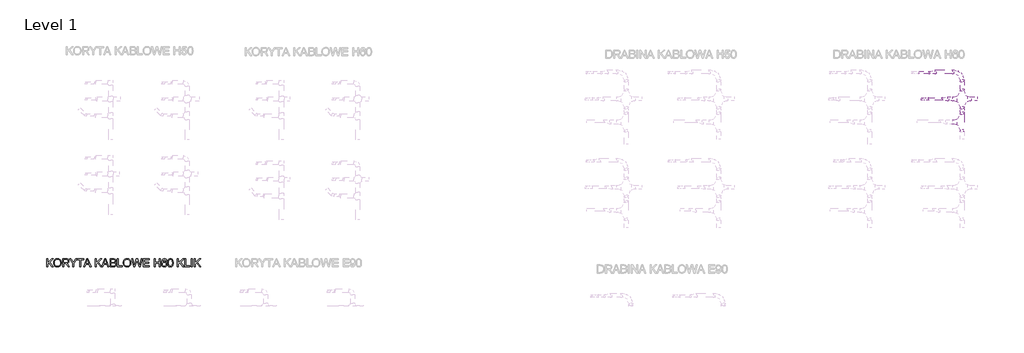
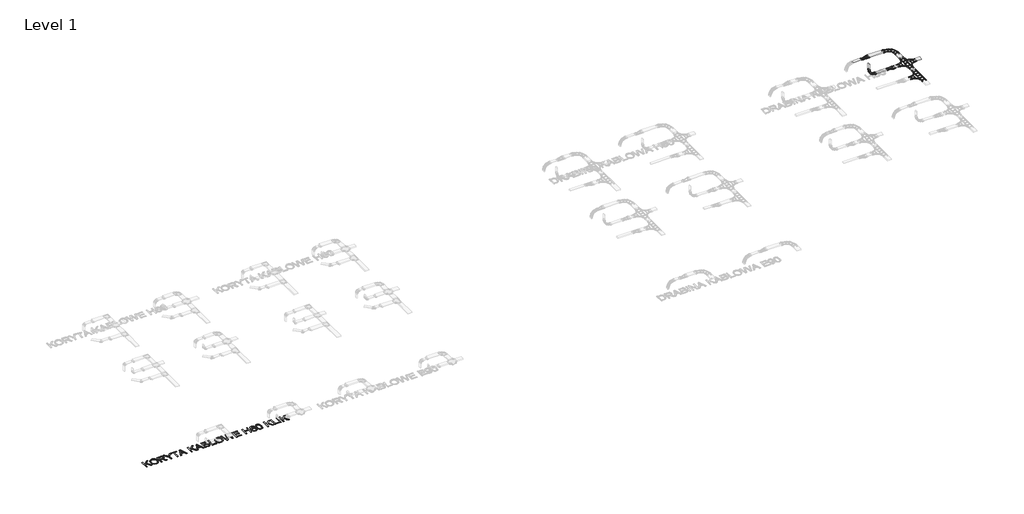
# One storey, part 6 of 9: 8 cable carrier segments, 6 cable carrier fittings, 1 proxy.
"""IFC4 building model written with IfcOpenShell, lengths in millimetres."""

from ifc_helpers import new_model, si_unit, frame, origin, origin_with_axes, place, context, project, spatial, polyline, outline, extrude, transform, mapped, element, save
from components import cable_carrier_fitting_1_5_mm_3523910d, cable_carrier_fitting_1_5_mm_19f47176, cable_carrier_fitting_1_5_mm_2af02ecb, cable_carrier_fitting_1_5_mm_7721eeaa, cable_carrier_fitting_1_5_mm_8b0a73e9, cable_carrier_fitting_1_5_mm_c053843e

model = new_model("IFC4")

# Units and contexts
model_context = context("Model", 3, world=origin())
ifc_project = project(units=[si_unit("LENGTHUNIT", "METRE", prefix="MILLI")], contexts=[model_context])

# Site, building, storey
site = spatial("IfcSite", under=ifc_project)
building = spatial("IfcBuilding", under=site)
storey = spatial("IfcBuildingStorey", under=building, Name="Level 1", Elevation=0.0)

# Proxy
placement = place(None, origin())
element("IfcBuildingElementProxy", 1, Name="600mm Arial", ObjectType="600mm Arial", at=placement, inside=storey, context=model_context, shape_type="SweptSolid", body=[
    extrude(outline(polyline([(-23948.6894302, 6231.1737435), (-23948.6894302, 6821.9429743), (-23874.8432764, 6821.9429743), (-23874.8432764, 6532.760282), (-23571.958661, 6821.9429743), (-23468.6894302, 6821.9429743), (-23722.9682764, 6579.0583589), (-23459.458661, 6231.1737435), (-23549.7471226, 6231.1737435), (-23775.3240456, 6529.1545127), (-23874.8432764, 6434.2506666), (-23874.8432764, 6231.1737435), (-23948.6894302, 6231.1737435)])), origin_with_axes(), (0.0, 0.0, 1.0), 10.0),
    extrude(outline(polyline([(-23431.7663533, 6518.7698974), (-23426.8444783, 6588.0637675), (-23412.0788533, 6649.4069166), (-23387.4694783, 6702.7993445), (-23353.0163533, 6748.2410512), (-23310.7837812, 6784.5241041), (-23262.8360649, 6810.4405704), (-23209.1732043, 6825.9904502), (-23149.7951995, 6831.1737435), (-23110.0506081, 6828.7398493), (-23072.3072187, 6821.4381666), (-23036.5650312, 6809.2686954), (-23002.8240456, 6792.2314358), (-22972.0307764, 6770.8402099), (-22945.1317379, 6745.6088397), (-22922.1269302, 6716.5373252), (-22903.0163533, 6683.6256666), (-22887.9983245, 6647.6220608), (-22877.271161, 6609.274705), (-22870.8348629, 6568.5835993), (-22868.6894302, 6525.5487435), (-22870.9475432, 6481.9459791), (-22877.7218822, 6440.7049935), (-22889.0124471, 6401.8257868), (-22904.8192379, 6365.3083589), (-22924.7681562, 6332.1172531), (-22948.4851033, 6303.2170127), (-22975.9700793, 6278.6076377), (-23007.2230841, 6258.2891281), (-23041.013649, 6242.3876858), (-23076.1113052, 6231.0295127), (-23112.5160528, 6224.2146089), (-23150.2278918, 6221.9429743), (-23190.6665937, 6224.4534911), (-23228.9057764, 6231.9850416), (-23264.9454399, 6244.5376257), (-23298.7855841, 6262.1112435), (-23329.5427956, 6284.025306), (-23356.333661, 6309.5992243), (-23379.1581802, 6338.8329983), (-23398.0163533, 6371.7266281), (-23412.7819783, 6406.9595007), (-23423.3288533, 6443.2110031), (-23429.6569783, 6480.4811353), (-23431.7663533, 6518.7698974)]), holes=[polyline([(-23357.9201995, 6518.0487435), (-23354.2287932, 6469.0914118), (-23343.1545745, 6425.6328781), (-23324.6975432, 6387.6731425), (-23298.8576995, 6355.212205), (-23267.4469423, 6329.2146089), (-23232.2771706, 6310.6448974), (-23193.3483846, 6299.5030704), (-23150.6605841, 6295.7891281), (-23107.2426153, 6299.5391281), (-23067.8540937, 6310.7891281), (-23032.4950192, 6329.5391281), (-23001.1653918, 6355.7891281), (-22975.5148509, 6388.9351618), (-22957.193036, 6428.3732627), (-22946.1999471, 6474.103431), (-22942.5355841, 6526.1256666), (-22944.1040937, 6559.9207387), (-22948.8096226, 6591.4982627), (-22956.6521706, 6620.8582387), (-22967.6317379, 6648.0006666), (-22981.6266298, 6672.5694767), (-22998.5151514, 6694.2085993), (-23018.2973028, 6712.9180344), (-23040.9730841, 6728.697782), (-23065.8393701, 6741.2233228), (-23092.193036, 6750.1701377), (-23120.0340817, 6755.5382267), (-23149.3625072, 6757.3275897), (-23190.5674351, 6753.8795728), (-23228.7976033, 6743.5355224), (-23264.053012, 6726.2954382), (-23296.333661, 6702.1593204), (-23323.2777716, 6669.9643084), (-23342.5235649, 6628.5475416), (-23354.0710408, 6577.9090199), (-23357.9201995, 6518.0487435)])]), origin_with_axes(), (0.0, 0.0, 1.0), 10.0),
    extrude(outline(polyline([(-22767.1509687, 6231.1737435), (-22767.1509687, 6821.9429743), (-22512.583661, 6821.9429743), (-22444.1641899, 6817.9585993), (-22394.3865456, 6806.0054743), (-22375.1768101, 6796.5042724), (-22358.0043341, 6783.9381666), (-22342.8691177, 6768.307157), (-22329.771161, 6749.6112435), (-22319.20175, 6728.8555344), (-22311.6521706, 6707.0451377), (-22305.6125072, 6660.260282), (-22308.1140096, 6629.9177339), (-22315.6185168, 6602.0631666), (-22328.1260288, 6576.69658), (-22345.6365456, 6553.8179743), (-22368.3754278, 6534.1575175), (-22396.568036, 6518.4453781), (-22430.2143701, 6506.681556), (-22469.3144302, 6498.8660512), (-22444.9754879, 6482.9646089), (-22427.3432764, 6467.2795127), (-22367.4875072, 6391.2698974), (-22268.9778918, 6231.1737435), (-22354.7951995, 6231.1737435), (-22431.6701995, 6353.6256666), (-22487.1990456, 6434.6833589), (-22507.8420745, 6458.3191762), (-22526.2134687, 6472.9766281), (-22561.333661, 6487.0391281), (-22604.1701995, 6489.635282), (-22693.3048149, 6489.635282), (-22693.3048149, 6231.1737435), (-22767.1509687, 6231.1737435)]), holes=[polyline([(-22693.3048149, 6563.4814358), (-22528.0163533, 6563.4814358), (-22480.5464014, 6566.0956185), (-22443.7134687, 6573.9381666), (-22415.9851033, 6587.5319166), (-22395.8288533, 6607.399705), (-22383.5512091, 6631.432157), (-22379.458661, 6657.5198974), (-22381.4102836, 6676.4051137), (-22387.2651514, 6693.541532), (-22397.0232644, 6708.9291522), (-22410.6846226, 6722.5679743), (-22428.5647307, 6733.7368445), (-22450.9790937, 6741.7146089), (-22477.9277115, 6746.5012675), (-22509.4105841, 6748.0968204), (-22693.3048149, 6748.0968204), (-22693.3048149, 6563.4814358)])]), origin_with_axes(), (0.0, 0.0, 1.0), 10.0),
    extrude(outline(polyline([(-22010.2278918, 6231.1737435), (-22010.2278918, 6481.4141281), (-22240.9971226, 6821.9429743), (-22153.8817379, 6821.9429743), (-22030.708661, 6640.0679743), (-21967.6798149, 6547.3275897), (-21904.5067379, 6646.7025897), (-21792.7278918, 6821.9429743), (-21705.6125072, 6821.9429743), (-21936.3817379, 6481.4141281), (-21936.3817379, 6231.1737435), (-22010.2278918, 6231.1737435)])), origin_with_axes(), (0.0, 0.0, 1.0), 10.0),
    extrude(outline(polyline([(-21493.3048149, 6231.1737435), (-21493.3048149, 6748.0968204), (-21687.1509687, 6748.0968204), (-21687.1509687, 6821.9429743), (-21225.6125072, 6821.9429743), (-21225.6125072, 6748.0968204), (-21419.458661, 6748.0968204), (-21419.458661, 6231.1737435), (-21493.3048149, 6231.1737435)])), origin_with_axes(), (0.0, 0.0, 1.0), 10.0),
    extrude(outline(polyline([(-21211.333661, 6231.1737435), (-20975.5163533, 6821.9429743), (-20912.6317379, 6821.9429743), (-20676.8144302, 6231.1737435), (-20754.8432764, 6231.1737435), (-20822.4875072, 6415.7891281), (-21065.8048149, 6415.7891281), (-21133.3048149, 6231.1737435), (-21211.333661, 6231.1737435)]), holes=[polyline([(-21038.6894302, 6489.635282), (-20849.458661, 6489.635282), (-20902.6798149, 6634.8756666), (-20944.0740456, 6748.0968204), (-20980.8528918, 6647.5679743), (-21038.6894302, 6489.635282)])]), origin_with_axes(), (0.0, 0.0, 1.0), 10.0),
    extrude(outline(polyline([(-20367.1509687, 6231.1737435), (-20367.1509687, 6821.9429743), (-20293.3048149, 6821.9429743), (-20293.3048149, 6532.760282), (-19990.4201995, 6821.9429743), (-19887.1509687, 6821.9429743), (-20141.4298149, 6579.0583589), (-19877.9201995, 6231.1737435), (-19968.208661, 6231.1737435), (-20193.7855841, 6529.1545127), (-20293.3048149, 6434.2506666), (-20293.3048149, 6231.1737435), (-20367.1509687, 6231.1737435)])), origin_with_axes(), (0.0, 0.0, 1.0), 10.0),
    extrude(outline(polyline([(-19891.333661, 6231.1737435), (-19655.5163533, 6821.9429743), (-19592.6317379, 6821.9429743), (-19356.8144302, 6231.1737435), (-19434.8432764, 6231.1737435), (-19502.4875072, 6415.7891281), (-19745.8048149, 6415.7891281), (-19813.3048149, 6231.1737435), (-19891.333661, 6231.1737435)]), holes=[polyline([(-19718.6894302, 6489.635282), (-19529.458661, 6489.635282), (-19582.6798149, 6634.8756666), (-19624.0740456, 6748.0968204), (-19660.8528918, 6647.5679743), (-19718.6894302, 6489.635282)])]), origin_with_axes(), (0.0, 0.0, 1.0), 10.0),
    extrude(outline(polyline([(-19277.9201995, 6231.1737435), (-19277.9201995, 6821.9429743), (-19052.4875072, 6821.9429743), (-18990.4863052, 6817.5980224), (-18942.0788533, 6804.5631666), (-18904.9754879, 6782.5138877), (-18889.8042139, 6767.9871449), (-18876.8865456, 6751.1256666), (-18859.2002476, 6714.2025897), (-18853.3048149, 6675.5487435), (-18858.2627476, 6639.97783), (-18873.1365456, 6606.5343204), (-18898.0343822, 6577.2735031), (-18933.0644302, 6554.2506666), (-18910.7762692, 6544.7494647), (-18891.2194783, 6532.399705), (-18874.3940576, 6517.2013877), (-18860.3000072, 6499.1545127), (-18849.1626875, 6478.8089599), (-18841.2074591, 6456.7146089), (-18836.4343221, 6432.8714599), (-18834.8432764, 6407.2795127), (-18839.1882283, 6366.0835993), (-18852.2230841, 6327.8804743), (-18871.6762091, 6295.3924935), (-18895.2759687, 6271.3420127), (-18924.1762091, 6253.9261474), (-18959.5307764, 6241.3420127), (-19002.4935168, 6233.7158108), (-19054.2182764, 6231.1737435), (-19277.9201995, 6231.1737435)]), holes=[polyline([(-19204.0740456, 6581.9429743), (-19069.2182764, 6581.9429743), (-19022.0548149, 6583.5295127), (-18990.4682764, 6588.2891281), (-18962.9021706, 6599.2326377), (-18943.0884687, 6615.6208589), (-18931.1353437, 6637.2013877), (-18927.1509687, 6663.7218204), (-18930.864911, 6689.4670127), (-18942.0067379, 6711.8948974), (-18960.0716418, 6729.400907), (-18984.5548149, 6740.3804743), (-19022.1269302, 6746.1677339), (-19079.458661, 6748.0968204), (-19204.0740456, 6748.0968204), (-19204.0740456, 6581.9429743)]), polyline([(-19204.0740456, 6305.0198974), (-19052.6317379, 6305.0198974), (-18997.8240456, 6307.9045127), (-18972.3853437, 6314.3047531), (-18951.4538533, 6323.9862435), (-18934.4346226, 6337.8504262), (-18920.7326995, 6356.7987435), (-18911.7002476, 6379.9838397), (-18908.6894302, 6406.5583589), (-18912.2230841, 6437.4237435), (-18922.8240456, 6463.962205), (-18941.3396706, 6484.713407), (-18968.6173149, 6498.2170127), (-19007.2531322, 6505.6268685), (-19059.8432764, 6508.0968204), (-19204.0740456, 6508.0968204), (-19204.0740456, 6305.0198974)])]), origin_with_axes(), (0.0, 0.0, 1.0), 10.0),
    extrude(outline(polyline([(-18733.3048149, 6231.1737435), (-18733.3048149, 6821.9429743), (-18659.458661, 6821.9429743), (-18659.458661, 6305.0198974), (-18364.0740456, 6305.0198974), (-18364.0740456, 6231.1737435), (-18733.3048149, 6231.1737435)])), origin_with_axes(), (0.0, 0.0, 1.0), 10.0),
    extrude(outline(polyline([(-18308.6894302, 6518.7698974), (-18303.7675552, 6588.0637675), (-18289.0019302, 6649.4069166), (-18264.3925552, 6702.7993445), (-18229.9394302, 6748.2410512), (-18187.7068581, 6784.5241041), (-18139.7591418, 6810.4405704), (-18086.0962812, 6825.9904502), (-18026.7182764, 6831.1737435), (-17986.9736851, 6828.7398493), (-17949.2302956, 6821.4381666), (-17913.4881081, 6809.2686954), (-17879.7471226, 6792.2314358), (-17848.9538533, 6770.8402099), (-17822.0548149, 6745.6088397), (-17799.0500072, 6716.5373252), (-17779.9394302, 6683.6256666), (-17764.9214014, 6647.6220608), (-17754.1942379, 6609.274705), (-17747.7579399, 6568.5835993), (-17745.6125072, 6525.5487435), (-17747.8706201, 6481.9459791), (-17754.6449591, 6440.7049935), (-17765.935524, 6401.8257868), (-17781.7423149, 6365.3083589), (-17801.6912331, 6332.1172531), (-17825.4081802, 6303.2170127), (-17852.8931562, 6278.6076377), (-17884.146161, 6258.2891281), (-17917.9367259, 6242.3876858), (-17953.0343822, 6231.0295127), (-17989.4391298, 6224.2146089), (-18027.1509687, 6221.9429743), (-18067.5896706, 6224.4534911), (-18105.8288533, 6231.9850416), (-18141.8685168, 6244.5376257), (-18175.708661, 6262.1112435), (-18206.4658726, 6284.025306), (-18233.2567379, 6309.5992243), (-18256.0812572, 6338.8329983), (-18274.9394302, 6371.7266281), (-18289.7050552, 6406.9595007), (-18300.2519302, 6443.2110031), (-18306.5800552, 6480.4811353), (-18308.6894302, 6518.7698974)]), holes=[polyline([(-18234.8432764, 6518.0487435), (-18231.1518701, 6469.0914118), (-18220.0776514, 6425.6328781), (-18201.6206201, 6387.6731425), (-18175.7807764, 6355.212205), (-18144.3700192, 6329.2146089), (-18109.2002476, 6310.6448974), (-18070.2714615, 6299.5030704), (-18027.583661, 6295.7891281), (-17984.1656923, 6299.5391281), (-17944.7771706, 6310.7891281), (-17909.4180961, 6329.5391281), (-17878.0884687, 6355.7891281), (-17852.4379278, 6388.9351618), (-17834.1161129, 6428.3732627), (-17823.123024, 6474.103431), (-17819.458661, 6526.1256666), (-17821.0271706, 6559.9207387), (-17825.7326995, 6591.4982627), (-17833.5752476, 6620.8582387), (-17844.5548149, 6648.0006666), (-17858.5497067, 6672.5694767), (-17875.4382283, 6694.2085993), (-17895.2203798, 6712.9180344), (-17917.896161, 6728.697782), (-17942.7624471, 6741.2233228), (-17969.1161129, 6750.1701377), (-17996.9571586, 6755.5382267), (-18026.2855841, 6757.3275897), (-18067.490512, 6753.8795728), (-18105.7206802, 6743.5355224), (-18140.9760889, 6726.2954382), (-18173.2567379, 6702.1593204), (-18200.2008485, 6669.9643084), (-18219.4466418, 6628.5475416), (-18230.9941177, 6577.9090199), (-18234.8432764, 6518.0487435)])]), origin_with_axes(), (0.0, 0.0, 1.0), 10.0),
    extrude(outline(polyline([(-17538.3528918, 6231.1737435), (-17699.458661, 6821.9429743), (-17623.3048149, 6821.9429743), (-17529.8432764, 6433.6737435), (-17500.9971226, 6313.8179743), (-17470.1317379, 6419.8275897), (-17353.0163533, 6821.9429743), (-17243.2567379, 6821.9429743), (-17158.1605841, 6530.4525897), (-17121.7062572, 6422.2795127), (-17094.8432764, 6313.8179743), (-17066.8625072, 6430.212205), (-16972.5355841, 6821.9429743), (-16896.3817379, 6821.9429743), (-17057.6317379, 6231.1737435), (-17136.5259687, 6231.1737435), (-17278.1605841, 6686.9429743), (-17297.9201995, 6750.5487435), (-17320.1317379, 6673.962205), (-17449.2182764, 6231.1737435), (-17538.3528918, 6231.1737435)])), origin_with_axes(), (0.0, 0.0, 1.0), 10.0),
    extrude(outline(polyline([(-16822.5355841, 6231.1737435), (-16822.5355841, 6821.9429743), (-16397.9201995, 6821.9429743), (-16397.9201995, 6748.0968204), (-16748.6894302, 6748.0968204), (-16748.6894302, 6572.712205), (-16416.3817379, 6572.712205), (-16416.3817379, 6498.8660512), (-16748.6894302, 6498.8660512), (-16748.6894302, 6305.0198974), (-16388.6894302, 6305.0198974), (-16388.6894302, 6231.1737435), (-16822.5355841, 6231.1737435)])), origin_with_axes(), (0.0, 0.0, 1.0), 10.0),
    extrude(outline(polyline([(-16047.1509687, 6231.1737435), (-16047.1509687, 6821.9429743), (-15973.3048149, 6821.9429743), (-15973.3048149, 6581.9429743), (-15659.458661, 6581.9429743), (-15659.458661, 6821.9429743), (-15585.6125072, 6821.9429743), (-15585.6125072, 6231.1737435), (-15659.458661, 6231.1737435), (-15659.458661, 6508.0968204), (-15973.3048149, 6508.0968204), (-15973.3048149, 6231.1737435), (-16047.1509687, 6231.1737435)])), origin_with_axes(), (0.0, 0.0, 1.0), 10.0),
    extrude(outline(polyline([(-15105.6125072, 6665.0198974), (-15179.458661, 6655.7891281), (-15191.3576995, 6692.3876858), (-15207.4394302, 6717.3756666), (-15223.3138293, 6730.8161714), (-15240.9370264, 6740.416532), (-15260.3090216, 6746.1767483), (-15281.4298149, 6748.0968204), (-15315.7567379, 6743.6256666), (-15348.0644302, 6730.212205), (-15375.8108245, 6701.9610031), (-15398.4730841, 6663.072782), (-15407.3297548, 6638.2695969), (-15413.7795745, 6608.0667724), (-15419.458661, 6531.462205), (-15389.8372668, 6566.0235031), (-15354.3384687, 6590.3804743), (-15314.9454399, 6604.82158), (-15273.6413533, 6609.635282), (-15238.1605841, 6606.3450175), (-15205.4201995, 6596.4742243), (-15175.4201995, 6580.0229022), (-15148.1605841, 6556.9910512), (-15125.5073389, 6528.7488637), (-15109.3264495, 6496.666532), (-15099.6179158, 6460.744056), (-15096.3817379, 6420.9814358), (-15102.4754879, 6368.10283), (-15110.0926754, 6343.1103421), (-15120.7567379, 6319.0823974), (-15134.0890697, 6296.915931), (-15149.7110649, 6277.5078781), (-15167.6227235, 6260.8582387), (-15187.8240456, 6246.9670127), (-15209.8823389, 6236.0189959), (-15233.364911, 6228.1989839), (-15258.271762, 6223.5069767), (-15284.6028918, 6221.9429743), (-15328.6248269, 6226.0896089), (-15368.3829399, 6238.5295127), (-15403.8772307, 6259.2626858), (-15435.1076995, 6288.2891281), (-15460.5689375, 6326.8348012), (-15478.755536, 6376.1256666), (-15489.6674951, 6436.1617243), (-15493.3048149, 6506.9429743), (-15489.2663533, 6586.2969406), (-15477.1509687, 6654.0223012), (-15456.958661, 6710.119056), (-15443.833661, 6733.8067062), (-15428.6894302, 6754.587205), (-15398.0494062, 6784.0553541), (-15362.5235649, 6805.104032), (-15322.1119062, 6817.7332387), (-15276.8144302, 6821.9429743), (-15242.803012, 6819.337806), (-15212.0187572, 6811.5223012), (-15184.4616658, 6798.4964599), (-15160.1317379, 6780.260282), (-15139.6870264, 6757.4267483), (-15123.7855841, 6730.6088397), (-15112.427411, 6699.806556), (-15105.6125072, 6665.0198974)]), holes=[polyline([(-15419.458661, 6422.135282), (-15415.1858245, 6389.4129262), (-15402.3673149, 6358.1689358), (-15382.4634687, 6331.305955), (-15356.9346226, 6311.7266281), (-15326.1233245, 6299.7735031), (-15290.3721226, 6295.7891281), (-15264.7035528, 6297.853431), (-15241.6401514, 6304.0463397), (-15221.1819182, 6314.3678541), (-15203.3288533, 6328.8179743), (-15188.8471826, 6346.8107627), (-15178.5031322, 6367.760282), (-15172.2967019, 6391.666532), (-15170.2278918, 6418.5295127), (-15172.2696586, 6444.3423132), (-15178.3949591, 6467.2614839), (-15188.6037932, 6487.2870248), (-15202.896161, 6504.4189358), (-15220.8033125, 6518.1433949), (-15241.8564976, 6527.94658), (-15266.0557163, 6533.8284911), (-15293.4009687, 6535.7891281), (-15318.7269903, 6533.8284911), (-15342.0608245, 6527.94658), (-15363.4024711, 6518.1433949), (-15382.7519302, 6504.4189358), (-15398.811125, 6487.5123853), (-15410.2819783, 6468.1629262), (-15417.1644903, 6446.3705584), (-15419.458661, 6422.135282)])]), origin_with_axes(), (0.0, 0.0, 1.0), 10.0),
    extrude(outline(polyline([(-15031.7663533, 6521.7987435), (-15026.3396706, 6616.3600416), (-15019.5563173, 6656.4607026), (-15010.0596226, 6691.774705), (-14997.8901514, 6722.5905103), (-14983.0884687, 6749.19658), (-14965.6545745, 6771.5929142), (-14945.5884687, 6789.7795127), (-14922.8225432, 6803.8510272), (-14897.2891899, 6813.9021089), (-14868.9884086, 6819.9327579), (-14837.9201995, 6821.9429743), (-14792.4153918, 6817.1833589), (-14751.6701995, 6802.9045127), (-14717.5956802, 6779.66533), (-14692.1028918, 6748.024705), (-14672.8480841, 6708.2530704), (-14657.4875072, 6660.6208589), (-14647.427411, 6600.13408), (-14644.0740456, 6521.7987435), (-14649.4466418, 6427.7783108), (-14656.162387, 6387.8128661), (-14665.5644302, 6352.5439358), (-14677.63925, 6321.7146089), (-14692.3733245, 6295.0679743), (-14709.7666538, 6272.604032), (-14729.8192379, 6254.322782), (-14752.6122067, 6240.1566161), (-14778.2266899, 6230.0379262), (-14806.6626875, 6223.9667123), (-14837.9201995, 6221.9429743), (-14878.5932764, 6225.4585993), (-14914.6509687, 6236.0054743), (-14946.0932764, 6253.5835993), (-14972.9201995, 6278.1929743), (-14998.6653918, 6322.6791522), (-15017.0548149, 6378.1088397), (-15028.0884687, 6444.4820368), (-15031.7663533, 6521.7987435)]), holes=[polyline([(-14957.9201995, 6521.9429743), (-14955.7567379, 6457.7467603), (-14949.2663533, 6405.7831185), (-14938.4490456, 6366.0520488), (-14923.3048149, 6338.5535512), (-14904.9875072, 6319.8441161), (-14884.6509687, 6306.4802339), (-14862.2951995, 6298.4619046), (-14837.9201995, 6295.7891281), (-14813.5451995, 6298.470919), (-14791.1894302, 6306.5162916), (-14770.8528918, 6319.9252459), (-14752.5355841, 6338.697782), (-14737.3913533, 6366.2413517), (-14726.5740456, 6405.963407), (-14720.083661, 6457.8639478), (-14717.9201995, 6521.9429743), (-14720.0115456, 6584.4399695), (-14726.2855841, 6635.4886474), (-14736.7423149, 6675.0890079), (-14751.3817379, 6703.2410512), (-14769.3925552, 6722.8654502), (-14789.9634687, 6736.8828781), (-14813.0944783, 6745.2933349), (-14838.7855841, 6748.0968204), (-14863.0343822, 6745.6268685), (-14885.0115456, 6738.2170127), (-14904.7170745, 6725.8672531), (-14922.1509687, 6708.5775897), (-14937.8000072, 6677.9285512), (-14948.9778918, 6636.6064358), (-14955.6846226, 6584.6112435), (-14957.9201995, 6521.9429743)])]), origin_with_axes(), (0.0, 0.0, 1.0), 10.0),
    extrude(outline(polyline([(-14320.9971226, 6231.1737435), (-14320.9971226, 6821.9429743), (-14247.1509687, 6821.9429743), (-14247.1509687, 6532.760282), (-13944.2663533, 6821.9429743), (-13840.9971226, 6821.9429743), (-14095.2759687, 6579.0583589), (-13831.7663533, 6231.1737435), (-13922.0548149, 6231.1737435), (-14147.6317379, 6529.1545127), (-14247.1509687, 6434.2506666), (-14247.1509687, 6231.1737435), (-14320.9971226, 6231.1737435)])), origin_with_axes(), (0.0, 0.0, 1.0), 10.0),
    extrude(outline(polyline([(-13776.3817379, 6231.1737435), (-13776.3817379, 6821.9429743), (-13702.5355841, 6821.9429743), (-13702.5355841, 6305.0198974), (-13407.1509687, 6305.0198974), (-13407.1509687, 6231.1737435), (-13776.3817379, 6231.1737435)])), origin_with_axes(), (0.0, 0.0, 1.0), 10.0),
    extrude(outline(polyline([(-13314.8432764, 6231.1737435), (-13314.8432764, 6821.9429743), (-13240.9971226, 6821.9429743), (-13240.9971226, 6231.1737435), (-13314.8432764, 6231.1737435)])), origin_with_axes(), (0.0, 0.0, 1.0), 10.0),
    extrude(outline(polyline([(-13093.3048149, 6231.1737435), (-13093.3048149, 6821.9429743), (-13019.458661, 6821.9429743), (-13019.458661, 6532.760282), (-12716.5740456, 6821.9429743), (-12613.3048149, 6821.9429743), (-12867.583661, 6579.0583589), (-12604.0740456, 6231.1737435), (-12694.3625072, 6231.1737435), (-12919.9394302, 6529.1545127), (-13019.458661, 6434.2506666), (-13019.458661, 6231.1737435), (-13093.3048149, 6231.1737435)])), origin_with_axes(), (0.0, 0.0, 1.0), 10.0),
])

# Cable carrier fittings
cable_carrier_fitting_1_5_mm_shape = cable_carrier_fitting_1_5_mm_3523910d(model_context)
element("IfcCableCarrierFitting", 2, ObjectType="BAKS_Łuk_drabiny : 1.5 mm", at=placement, inside=storey, context=model_context, shape_type="MappedRepresentation", body=[
    mapped(cable_carrier_fitting_1_5_mm_shape, transform((43375.8987392, 20568.4533524, 2750.0), x_axis=(0.0, 1.0, 0.0), y_axis=(-1.0, 0.0, 0.0), z_axis=(0.0, 0.0, 1.0))),
])
cable_carrier_fitting_1_5_mm_2_shape = cable_carrier_fitting_1_5_mm_19f47176(model_context)
element("IfcCableCarrierFitting", 3, ObjectType="BAKS_Czwórnik_drabiny : 1.5 mm", at=placement, inside=storey, context=model_context, shape_type="MappedRepresentation", body=[
    mapped(cable_carrier_fitting_1_5_mm_2_shape, transform((43375.8987392, 18581.6749022, 2750.0), x_axis=(0.0, 1.0, 0.0), y_axis=(-1.0, 0.0, 0.0), z_axis=(0.0, 0.0, 1.0))),
])
cable_carrier_fitting_1_5_mm_3_shape = cable_carrier_fitting_1_5_mm_2af02ecb(model_context)
element("IfcCableCarrierFitting", 4, ObjectType="BAKS_Redukcja_drabiny : 1.5 mm", at=placement, inside=storey, context=model_context, shape_type="MappedRepresentation", body=[
    mapped(cable_carrier_fitting_1_5_mm_3_shape, transform((41509.31285, 20568.4533524, 2750.0), x_axis=(-1.0, 0.0, 0.0), y_axis=(0.0, -1.0, 0.0), z_axis=(0.0, 0.0, 1.0))),
])
cable_carrier_fitting_1_5_mm_4_shape = cable_carrier_fitting_1_5_mm_7721eeaa(model_context)
element("IfcCableCarrierFitting", 5, ObjectType="BAKS_Łuk_pionowy_drabiny_wew : 1.5 mm", at=placement, inside=storey, context=model_context, shape_type="MappedRepresentation", body=[
    mapped(cable_carrier_fitting_1_5_mm_4_shape, transform((40404.2228336, 18581.6749022, 2750.0), x_axis=(0.0, 0.0, -1.0), y_axis=(1.0, 0.0, 0.0), z_axis=(0.0, -1.0, 0.0))),
])
cable_carrier_fitting_1_5_mm_5_shape = cable_carrier_fitting_1_5_mm_8b0a73e9(model_context)
element("IfcCableCarrierFitting", 6, ObjectType="BAKS_Trójnik_drabiny : 1.5 mm", at=placement, inside=storey, context=model_context, shape_type="MappedRepresentation", body=[
    mapped(cable_carrier_fitting_1_5_mm_5_shape, transform((43375.8987392, 16879.8296821, 2750.0), x_axis=(0.0, -1.0, 0.0), y_axis=(1.0, 0.0, 0.0), z_axis=(0.0, 0.0, 1.0))),
])
cable_carrier_fitting_1_5_mm_6_shape = cable_carrier_fitting_1_5_mm_c053843e(model_context)
element("IfcCableCarrierFitting", 7, ObjectType="BAKS_Redukcja_drabiny : 1.5 mm", at=placement, inside=storey, context=model_context, shape_type="MappedRepresentation", body=[
    mapped(cable_carrier_fitting_1_5_mm_6_shape, transform((41824.2228336, 18581.6749022, 2750.0), x_axis=(1.0, 0.0, 0.0), y_axis=(0.0, 1.0, 0.0), z_axis=(0.0, 0.0, 1.0))),
])

# Cable carrier segments
element("IfcCableCarrierSegment", 8, ObjectType="BAKS - drabina kablowa H60 (DKP)", at=placement, inside=storey, context=model_context, shape_type="SweptSolid", body=[
    extrude(outline(polyline([(43525.8987392, 17599.8296821), (43225.8987392, 17599.8296821), (43225.8987392, 17861.6749022), (43525.8987392, 17861.6749022), (43525.8987392, 17599.8296821)])), frame((0.0, 0.0, 2720.0), z_axis=(0.0, 0.0, 1.0), x_axis=(1.0, 0.0, 0.0)), (0.0, 0.0, 1.0), 60.0),
])
element("IfcCableCarrierSegment", 9, ObjectType="BAKS - drabina kablowa H60 (DKP)", at=placement, inside=storey, context=model_context, shape_type="SweptSolid", body=[
    extrude(outline(polyline([(40909.31285, 20618.4533524), (40909.31285, 20418.4533524), (40229.2228336, 20418.4533524), (40229.2228336, 20618.4533524), (40909.31285, 20618.4533524)])), frame((0.0, 0.0, 2720.0), z_axis=(0.0, 0.0, 1.0), x_axis=(1.0, 0.0, 0.0)), (0.0, 0.0, 1.0), 60.0),
])
element("IfcCableCarrierSegment", 10, ObjectType="BAKS - drabina kablowa H60 (DKP)", at=placement, inside=storey, context=model_context, shape_type="SweptSolid", body=[
    extrude(outline(polyline([(44504.2228336, 18731.6749022), (44504.2228336, 18431.6749022), (44095.8987392, 18431.6749022), (44095.8987392, 18731.6749022), (44504.2228336, 18731.6749022)])), frame((0.0, 0.0, 2720.0), z_axis=(0.0, 0.0, 1.0), x_axis=(1.0, 0.0, 0.0)), (0.0, 0.0, 1.0), 60.0),
])
element("IfcCableCarrierSegment", 11, ObjectType="BAKS - drabina kablowa H60 (DKP)", at=placement, inside=storey, context=model_context, shape_type="SweptSolid", body=[
    extrude(outline(polyline([(40374.2228336, 18481.6749022), (40374.2228336, 18681.6749022), (40434.2228336, 18681.6749022), (40434.2228336, 18481.6749022), (40374.2228336, 18481.6749022)])), frame((0.0, 0.0, 3280.0), z_axis=(0.0, 0.0, 1.0), x_axis=(1.0, 0.0, 0.0)), (0.0, 0.0, 1.0), 420.0),
])
element("IfcCableCarrierSegment", 12, ObjectType="BAKS - drabina kablowa H60 (DKP)", at=placement, inside=storey, context=model_context, shape_type="SweptSolid", body=[
    extrude(outline(polyline([(40934.2228336, 18481.6749022), (40934.2228336, 18681.6749022), (41824.2228336, 18681.6749022), (41824.2228336, 18481.6749022), (40934.2228336, 18481.6749022)])), frame((0.0, 0.0, 2720.0), z_axis=(0.0, 0.0, 1.0), x_axis=(1.0, 0.0, 0.0)), (0.0, 0.0, 1.0), 60.0),
])
element("IfcCableCarrierSegment", 13, ObjectType="BAKS - drabina kablowa H60 (DKP)", at=placement, inside=storey, context=model_context, shape_type="SweptSolid", body=[
    extrude(outline(polyline([(43525.8987392, 19301.6749022), (43225.8987392, 19301.6749022), (43225.8987392, 19848.4533524), (43525.8987392, 19848.4533524), (43525.8987392, 19301.6749022)])), frame((0.0, 0.0, 2720.0), z_axis=(0.0, 0.0, 1.0), x_axis=(1.0, 0.0, 0.0)), (0.0, 0.0, 1.0), 60.0),
])
element("IfcCableCarrierSegment", 14, ObjectType="BAKS - drabina kablowa H60 (DKP)", at=placement, inside=storey, context=model_context, shape_type="SweptSolid", body=[
    extrude(outline(polyline([(42655.8987392, 20718.4533524), (42655.8987392, 20418.4533524), (41509.31285, 20418.4533524), (41509.31285, 20718.4533524), (42655.8987392, 20718.4533524)])), frame((0.0, 0.0, 2720.0), z_axis=(0.0, 0.0, 1.0), x_axis=(1.0, 0.0, 0.0)), (0.0, 0.0, 1.0), 60.0),
])
element("IfcCableCarrierSegment", 15, ObjectType="BAKS - drabina kablowa H60 (DKP)", at=placement, inside=storey, context=model_context, shape_type="SweptSolid", body=[
    extrude(outline(polyline([(42424.2228336, 18431.6749022), (42424.2228336, 18731.6749022), (42655.8987392, 18731.6749022), (42655.8987392, 18431.6749022), (42424.2228336, 18431.6749022)])), frame((0.0, 0.0, 2720.0), z_axis=(0.0, 0.0, 1.0), x_axis=(1.0, 0.0, 0.0)), (0.0, 0.0, 1.0), 60.0),
])

save(model, "model.ifc")
